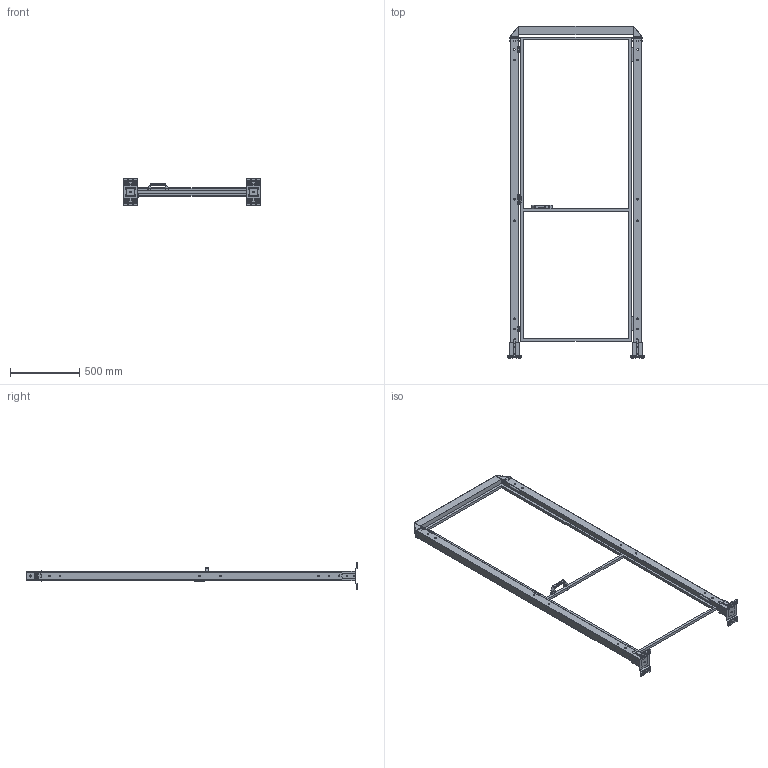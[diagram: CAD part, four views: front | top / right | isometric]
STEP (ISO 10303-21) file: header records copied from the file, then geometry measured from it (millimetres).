
FILE_DESCRIPTION(('STEP AP242'),'1');
FILE_NAME('vfda_bscncr2_08002320.stp','2025-01-23T13:59:23',('TraceParts'),('TraceParts S.A.'),'Spatial InterOp 3D',' ',' ');
FILE_SCHEMA(('AP242_MANAGED_MODEL_BASED_3D_ENGINEERING_MIM_LF {1 0 10303 442 1 1 4}'));
Length unit declared in the file: millimetre
Products named in the file (1): vfda_bscncr2_08002320_1
Bounding box: 990 x 2401 x 192 mm (x, y, z)
Volume: 5151952.4 mm3; surface area: 3399660 mm2
Topology: 12 solids, 12 shells, 1942 faces, 5208 edges, 3340 vertices
Faces by surface type: plane 950, cylinder 652, bspline 236, cone 60, torus 40, sphere 4
Entity records: 78408 total; most frequent: CARTESIAN_POINT 14215, ORIENTED_EDGE 10408, DIRECTION 9578, EDGE_CURVE 5204, VERTEX_POINT 3340, LINE 3216, VECTOR 3216, AXIS2_PLACEMENT_3D 3181
